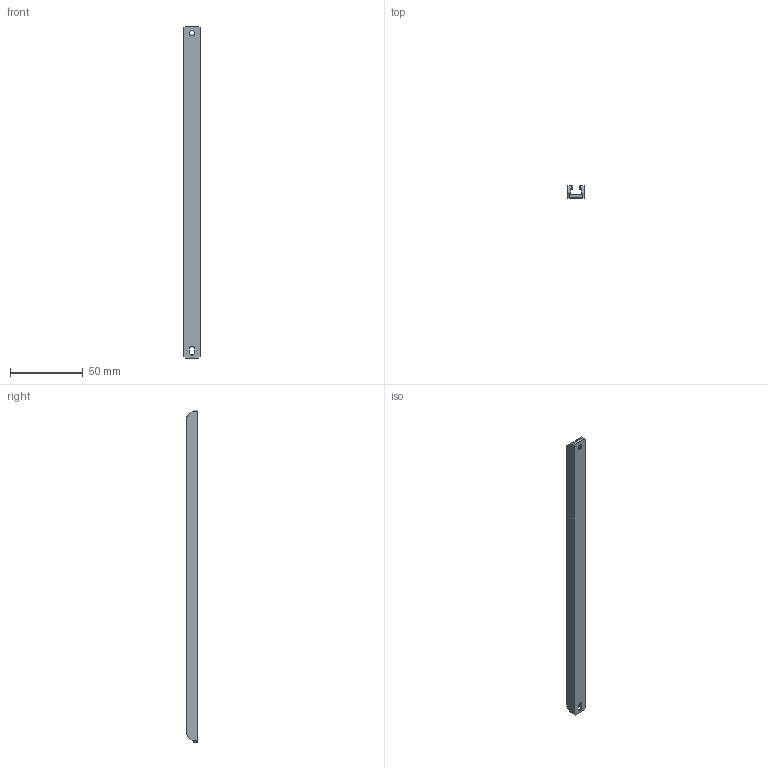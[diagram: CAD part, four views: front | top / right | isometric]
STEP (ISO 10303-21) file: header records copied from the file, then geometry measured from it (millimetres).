
FILE_DESCRIPTION (( 'STEP AP214' ), '1' );
FILE_NAME ('3.1.01.02.025 Go1俋扢假蚾絳寢(1).STEP', '2023-04-13T01:16:25', ( 'y' ), ( '' ), 'SwSTEP 2.0', 'SolidWorks 2021', '' );
FILE_SCHEMA (( 'AUTOMOTIVE_DESIGN' ));
Length unit declared in the file: millimetre
Products named in the file (1): 3.1.01.02.025 Go1俋扢假蚾絳寢(1)
Bounding box: 11 x 8 x 228 mm (x, y, z)
Volume: 11181.8 mm3; surface area: 12507 mm2
Topology: 1 solids, 1 shells, 44 faces, 119 edges, 77 vertices
Faces by surface type: plane 28, cylinder 12, cone 4
Entity records: 1414 total; most frequent: CARTESIAN_POINT 253, ORIENTED_EDGE 238, DIRECTION 230, EDGE_CURVE 119, LINE 90, VECTOR 90, VERTEX_POINT 77, AXIS2_PLACEMENT_3D 70
